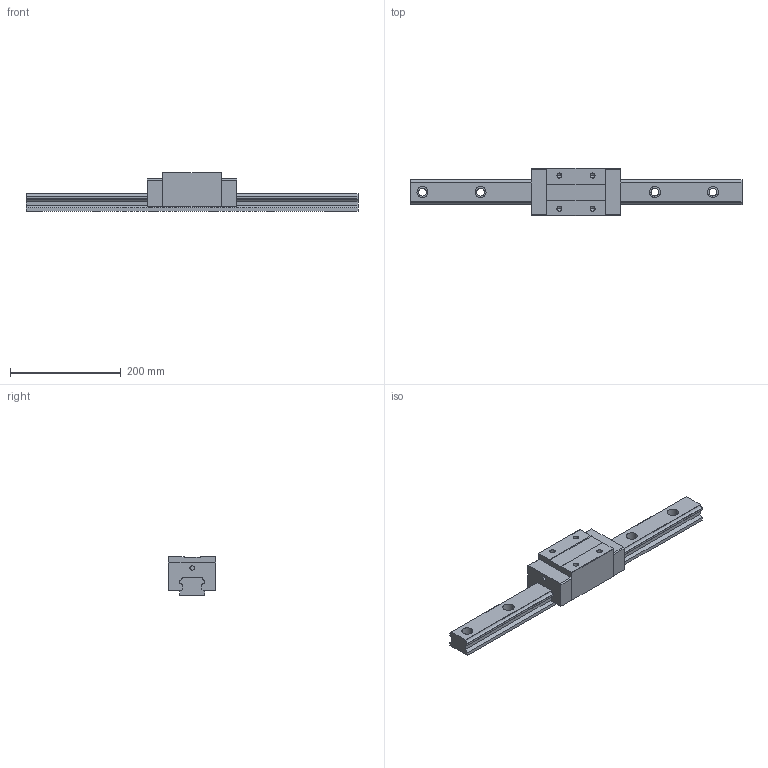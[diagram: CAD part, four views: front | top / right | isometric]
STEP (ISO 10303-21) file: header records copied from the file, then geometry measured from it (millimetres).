
FILE_DESCRIPTION (( 'STEP AP203' ), '1' );
FILE_NAME ('TRH45VL-WZ-§ï.STEP', '2023-08-29T07:29:08', ( '' ), ( '' ), 'SwSTEP 2.0', 'SolidWorks 2022', '' );
FILE_SCHEMA (( 'CONFIG_CONTROL_DESIGN' ));
Length unit declared in the file: millimetre
Products named in the file (1): TRH45VL-WZ-改
Bounding box: 600 x 85.5 x 70 mm (x, y, z)
Volume: 1349357.7 mm3; surface area: 162362.1 mm2
Topology: 1 solids, 1 shells, 161 faces, 440 edges, 284 vertices
Faces by surface type: plane 73, cylinder 72, cone 16
Entity records: 5163 total; most frequent: DIRECTION 908, CARTESIAN_POINT 878, ORIENTED_EDGE 864, EDGE_CURVE 432, AXIS2_PLACEMENT_3D 314, VERTEX_POINT 284, LINE 280, VECTOR 280
